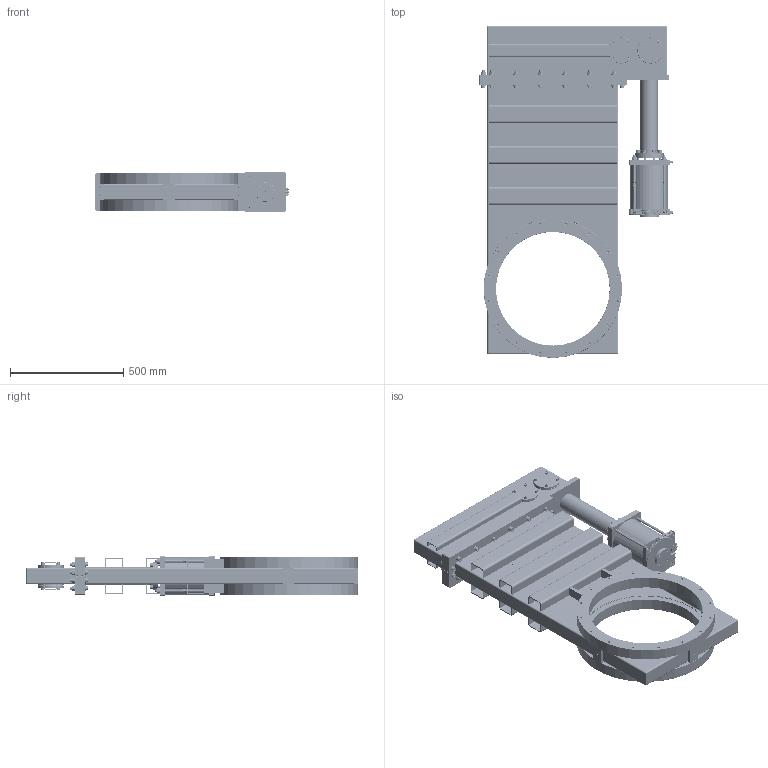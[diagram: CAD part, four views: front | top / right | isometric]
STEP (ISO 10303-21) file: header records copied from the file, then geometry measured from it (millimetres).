
FILE_DESCRIPTION(/* description */ (''),/* implementation_level */ '2;1');
FILE_NAME(/* name */ '1004344760_203.stp',/* time_stamp */ '2014-05-22T10:16:20+02:00',/* author */ (''),/* organization */ (''),/* preprocessor_version */ 'ST-DEVELOPER v11',/* originating_system */ 'SIEMENS PLM Software NX 7.5',/* authorisation */ '');
FILE_SCHEMA (('AP203_CONFIGURATION_CONTROLLED_3D_DESIGN_OF_MECHANICAL_PARTS_AND_ASSEMBLIES_MIM_LF'));
Products named in the file (66): N-8406-013_3.2; N-8406-013_2.1; 32523-02_2.1; 54687-01_2.1; 323364.1; 323431.3; N-6195-007.2; 323395.1; 323386.1; 323388.3; N-7100-005_2.1; 323413.3; 73662-01.1; 202839_1.2; N-6121-039.1; N-6099-417.1; 238327.1_18332ID; 238327.1_18432ID; 238327.1; 238325_01.1; 400678_18444ID; 238301_01.1; 238302_02.1; 385683; N-6090-314.1; 385732; N-6121-026.2; 468176; 415429; 231211.2; 77379-01.1; T-9001-055.1; N-6016-478.2; 398216; 385359; 228777; n-6162-408; 224858.1; n-6162-406; 74577.3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
Assembly tree (211 placements, depth 5):
  565430
    404526_MODEL
      400438_MODELNX-ARRAGMNTgeschweisst, bearbeitet vse
        231211.2  x6
        415429
        468176  x2
      231213.4  x4
      400435  x3
      218899.3
      744599
    405126
      74580.1
      N-6053-414.2  x18
      N-6162-407.2  x16
      238323_01.2  x4
      74585.1  x4
      N-6131-416.2  x34
      230056.17_NX-ARRAGMNTLM Unbetaetigt
        N-6121-026.2
        385732
        323461.4_NX-ARRAGMNTUNBETAETIGT
          323413.3
          N-7100-005_2.1
          323388.3
          323386.1
          323395.1
          N-6195-007.2
          323431.3
      224808.1
      N-6099-528.1  x2
      230057.17_NX-ARRAGMNTLM Betaetigt
        N-6090-314.1  x8
        385683
        323461.4_NX-ARRAGMNTBETAETIGT
          323413.3
          N-7100-005_2.1
          323388.3
          323395.1
          N-6195-007.2
          323431.3
          323364.1
      74577.3
      n-6162-406
      224858.1  x8
      n-6162-408  x8
      228777  x16
      385359  x2
      398216  x14
      404631_MODEL
        238302_02.1
        238301_01.1
        400678_18444ID
        54686-r1.1
          54687-01_2.1
          32523-02_2.1
        238325_01.1  x2
        238327.1  x2
        238327.1_18432ID
        238327.1_18332ID
    78855-R1.9_NX-ARRAGMNTEXPLOSION  x2
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Bounding box: 854 x 1462.93 x 180 mm (x, y, z)
Volume: 24237248.6 mm3; surface area: 6856742.1 mm2
Topology: 300 solids, 301 shells, 3797 faces, 9086 edges, 5988 vertices
Faces by surface type: plane 2183, cylinder 1048, cone 294, extrusion 92, torus 85, bspline 82, sphere 11, revolution 2
Full cylindrical faces by diameter (mm): 1.4 x4, 1.5 x4, 1.9 x2, 2 x4, 2.115 x8, 2.3 x2, 2.475 x2, 2.5 x12, 3 x6, 3.3 x2, 3.5 x11, 3.74 x1, 4.7 x4, 4.96 x1, 5 x6, 5.2 x4, 5.5 x2, 5.6 x4, 5.7 x2, 5.8 x4, 6 x4, 6.4 x4, 6.475 x2, 6.5 x2, 6.66 x16, 6.7 x16, 6.8 x24, 6.98 x2, 7 x1, 7.008 x1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
Entity records: 72455 total; most frequent: CARTESIAN_POINT 18330, DIRECTION 7930, ORIENTED_EDGE 7478, EDGE_CURVE 3739, AXIS2_PLACEMENT_3D 2962, VERTEX_POINT 2754, EDGE_LOOP 2467, VECTOR 2005
